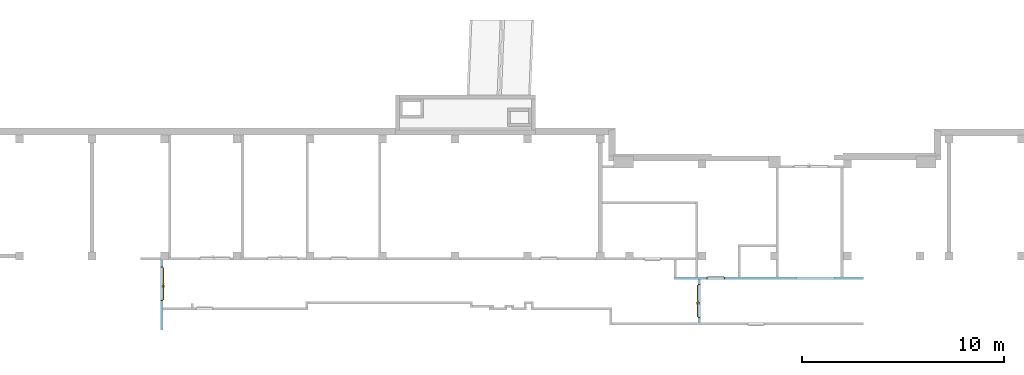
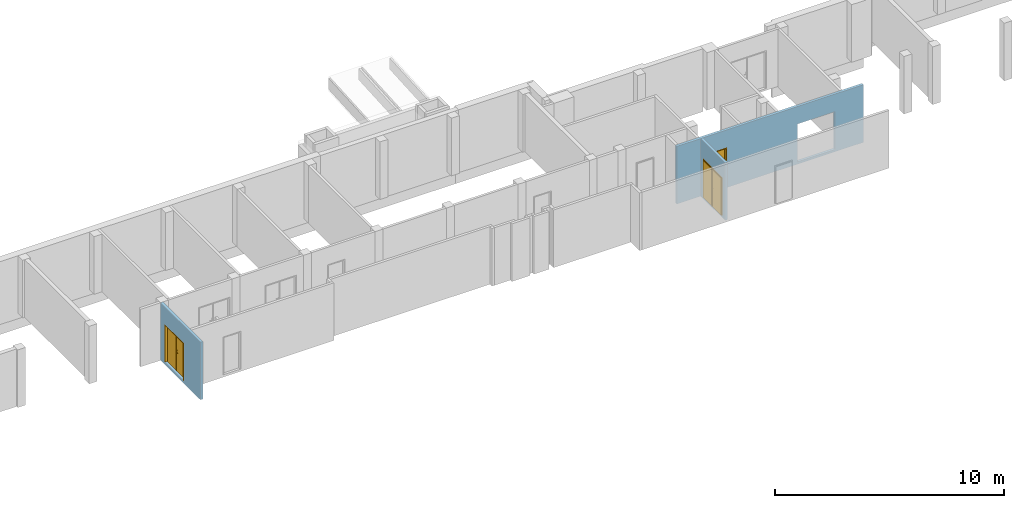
# One storey, part 5 of 6: 3 doors, 4 openings, plus 3 elements that do not belong to this part.
"""IFC4 building model written with IfcOpenShell, lengths in metres."""

import ifcopenshell
import ifcopenshell.guid

model = None  # the IFC model being written
_history = None  # IfcOwnerHistory: only IFC2X3 demands one
_inside = {}  # id of a spatial element -> (the spatial element, [elements in it])
_under = {}  # id of a project, library or spatial element -> (it, [spatial elements below it])
_declared = {}  # id of a project -> (the project, [libraries it declares])
_typed = {}  # id of a type object -> (the type object, [elements of that type])
_made_of = {}  # id of a material, layer set ... -> (it, [elements and type objects made of it])


def new_model(schema):
    """Start an empty IFC model of exactly this schema.

    Asked for "IFC4X3", IfcOpenShell would pick the latest addendum, in which some entities
    have other attributes; the version numbers below select the first issue.
    IFC2X3 requires an IfcOwnerHistory on every rooted entity: one is made here for all.
    """
    global model, _history
    if schema == "IFC4X3":
        model = ifcopenshell.file(schema_version=(4, 3, 0, 0))
    else:
        model = ifcopenshell.file(schema=schema)
    _inside.clear()
    _under.clear()
    _declared.clear()
    _typed.clear()
    _made_of.clear()
    _history = None
    if model.schema == "IFC2X3":
        org = make("IfcOrganization", Name="unknown")
        user = make(
            "IfcPersonAndOrganization",
            ThePerson=make("IfcPerson", FamilyName="unknown"),
            TheOrganization=org,
        )
        app = make(
            "IfcApplication",
            ApplicationDeveloper=org,
            Version="unknown",
            ApplicationFullName="unknown",
            ApplicationIdentifier="unknown",
        )
        _history = make(
            "IfcOwnerHistory",
            OwningUser=user,
            OwningApplication=app,
            ChangeAction="ADDED",
            CreationDate=0,
        )
    return model


def make(cls, **values):
    """One entity of the class cls with the attributes given. An attribute that is None is left unset."""
    return model.create_entity(
        cls, **{name: value for name, value in values.items() if value is not None}
    )


def entity(cls, *values):
    """Any entity or typed value of the class cls, its attributes in the order of the schema. None: left unset."""
    e = model.create_entity(cls)
    for i, value in enumerate(values):
        if value is not None:
            e[i] = value
    return e


def rooted(cls, **values):
    """An entity with a GlobalId (a new one), such as an element, a storey or a relation."""
    return make(cls, GlobalId=ifcopenshell.guid.new(), OwnerHistory=_history, **values)


def si_unit(unit_type, name, prefix=None):
    """IfcSIUnit, for example si_unit("LENGTHUNIT", "METRE", prefix="MILLI")."""
    return make("IfcSIUnit", UnitType=unit_type, Prefix=prefix, Name=name)


def converted_unit(unit_type, name, factor, base, dimensions=None, offset=None):
    """IfcConversionBasedUnit, such as the inch: factor (a typed value) times the base unit."""
    return make(
        "IfcConversionBasedUnit"
        if offset is None
        else "IfcConversionBasedUnitWithOffset",
        ConversionOffset=offset,
        Dimensions=None
        if dimensions is None
        else entity("IfcDimensionalExponents", *dimensions),
        UnitType=unit_type,
        Name=name,
        ConversionFactor=make(
            "IfcMeasureWithUnit", ValueComponent=factor, UnitComponent=base
        ),
    )


def derived_unit(unit_type, elements):
    """IfcDerivedUnit: a product of units, each with its exponent."""
    return make(
        "IfcDerivedUnit",
        Elements=[
            make("IfcDerivedUnitElement", Unit=unit, Exponent=power)
            for unit, power in elements
        ],
        UnitType=unit_type,
    )


def assignment(units):
    """IfcUnitAssignment: the units of a project."""
    return None if units is None else make("IfcUnitAssignment", Units=units)


def point(xyz):
    """IfcCartesianPoint."""
    return None if xyz is None else make("IfcCartesianPoint", Coordinates=xyz)


def direction(xyz):
    """IfcDirection."""
    return None if xyz is None else make("IfcDirection", DirectionRatios=xyz)


def frame(location, z_axis=None, x_axis=None):
    """IfcAxis2Placement3D, a coordinate frame: its origin and axes. An axis left out is left unset."""
    return make(
        "IfcAxis2Placement3D",
        Location=point(location),
        Axis=direction(z_axis),
        RefDirection=direction(x_axis),
    )


def frame_2d(location, x_axis=None):
    """IfcAxis2Placement2D, a coordinate frame in the plane: its origin and x axis."""
    return make(
        "IfcAxis2Placement2D", Location=point(location), RefDirection=direction(x_axis)
    )


def origin():
    """The frame at (0, 0, 0) with its axes left unset."""
    return frame((0.0, 0.0, 0.0))


def origin_with_axes():
    """The frame at (0, 0, 0) with the z axis (0, 0, 1) and the x axis (1, 0, 0) written out."""
    return frame((0.0, 0.0, 0.0), z_axis=(0.0, 0.0, 1.0), x_axis=(1.0, 0.0, 0.0))


def place(relative_to, where):
    """IfcLocalPlacement: puts the frame where relative to a parent placement (None: the world)."""
    return make(
        "IfcLocalPlacement", PlacementRelTo=relative_to, RelativePlacement=where
    )


def context(
    kind, dimensions, precision=None, world=None, true_north=None, identifier=None
):
    """IfcGeometricRepresentationContext, for example the 3D "Model" context."""
    return make(
        "IfcGeometricRepresentationContext",
        ContextIdentifier=identifier,
        ContextType=kind,
        CoordinateSpaceDimension=dimensions,
        Precision=precision,
        WorldCoordinateSystem=world,
        TrueNorth=true_north,
    )


def subcontext(parent, identifier, kind, view, scale=None):
    """IfcGeometricRepresentationSubContext, for example "Body" below "Model"."""
    return make(
        "IfcGeometricRepresentationSubContext",
        ContextIdentifier=identifier,
        ContextType=kind,
        ParentContext=parent,
        TargetScale=scale,
        TargetView=view,
    )


def project(units=None, contexts=None):
    """IfcProject with its units and contexts."""
    return rooted(
        "IfcProject",
        Name="project",
        RepresentationContexts=contexts,
        UnitsInContext=assignment(units),
    )


def spatial(cls, under=None, at=None, **own):
    """A site, building, storey or space (cls), placed at a placement, below another one or the project."""
    s = rooted(cls, ObjectPlacement=at, **own)
    if under is not None:
        _under.setdefault(under.id(), (under, []))[1].append(s)
    return s


def polyline(points):
    """IfcPolyline through the points."""
    return make("IfcPolyline", Points=[point(p) for p in points])


def profile(cls, at=None, kind="AREA", **sizes):
    """A parametric profile (cls). Its sizes go by their IFC names, for example OverallWidth=200.0."""
    return make(cls, ProfileType=kind, Position=at, **sizes)


def rectangle(**sizes):
    """IfcRectangleProfileDef."""
    return profile("IfcRectangleProfileDef", **sizes)


def outline(outer, holes=None, kind="AREA"):
    """IfcArbitraryClosedProfileDef: a profile drawn as a closed curve; with holes, ...WithVoids."""
    if holes is None:
        return make("IfcArbitraryClosedProfileDef", ProfileType=kind, OuterCurve=outer)
    return make(
        "IfcArbitraryProfileDefWithVoids",
        ProfileType=kind,
        OuterCurve=outer,
        InnerCurves=holes,
    )


def extrude(swept, where, along, depth):
    """IfcExtrudedAreaSolid: the profile swept, set in the frame where, extruded along a direction by depth."""
    return make(
        "IfcExtrudedAreaSolid",
        SweptArea=swept,
        Position=where,
        ExtrudedDirection=direction(along),
        Depth=depth,
    )


def faces_of(points, faces, orient=None, outer=None):
    """IfcFace entities. A face is a list of loops; a loop is a list of indices into points, from 0.

    orient and outer hold one flag for each loop. By default every Orientation is true, the
    first loop of a face is its IfcFaceOuterBound and the others are IfcFaceBound.
    """
    made = []
    for i, loops in enumerate(faces):
        bounds = []
        for j, loop in enumerate(loops):
            is_outer = j == 0 if outer is None else outer[i][j]
            bounds.append(
                make(
                    "IfcFaceOuterBound" if is_outer else "IfcFaceBound",
                    Bound=make("IfcPolyLoop", Polygon=[points[k] for k in loop]),
                    Orientation=True if orient is None else orient[i][j],
                )
            )
        made.append(make("IfcFace", Bounds=bounds))
    return made


def closed_shell(faces, orient=None, outer=None):
    """The faces of one IfcClosedShell. faceted_brep and surface_model build it on their shared points."""
    return ("IfcClosedShell", faces, orient, outer)


def open_shell(faces, orient=None, outer=None):
    """The faces of one IfcOpenShell. surface_model builds it on its shared points."""
    return ("IfcOpenShell", faces, orient, outer)


def faceted_brep(points, faces, orient=None, outer=None, voids=None):
    """IfcFacetedBrep: a solid bounded by flat faces; with voids (closed shells), ...WithVoids."""
    shared = [point(p) for p in points]
    hull = make("IfcClosedShell", CfsFaces=faces_of(shared, faces, orient, outer))
    if voids is None:
        return make("IfcFacetedBrep", Outer=hull)
    return make(
        "IfcFacetedBrepWithVoids",
        Outer=hull,
        Voids=[
            make(cls, CfsFaces=faces_of(shared, fs, o, b)) for cls, fs, o, b in voids
        ],
    )


def surface_model(cls, points, shells):
    """IfcFaceBasedSurfaceModel or IfcShellBasedSurfaceModel (cls): surfaces that need not close."""
    shared = [point(p) for p in points]
    made = [make(c, CfsFaces=faces_of(shared, fs, o, b)) for c, fs, o, b in shells]
    if cls == "IfcFaceBasedSurfaceModel":
        return make(cls, FbsmFaces=made)
    return make(cls, SbsmBoundary=made)


def shape(context_of_items, identifier, shape_type, items):
    """IfcShapeRepresentation: the items that make up one representation, for example the "Body"."""
    return make(
        "IfcShapeRepresentation",
        ContextOfItems=context_of_items,
        RepresentationIdentifier=identifier,
        RepresentationType=shape_type,
        Items=items,
    )


def source(mapping_origin, context_of_items, identifier, shape_type, items):
    """IfcRepresentationMap: a shape defined once, which mapped items show again and again."""
    return make(
        "IfcRepresentationMap",
        MappingOrigin=mapping_origin,
        MappedRepresentation=shape(context_of_items, identifier, shape_type, items),
    )


def transform(
    local_origin,
    x_axis=None,
    y_axis=None,
    z_axis=None,
    scale=None,
    scale2=None,
    scale3=None,
    uniform=True,
):
    """IfcCartesianTransformationOperator3D, or its non-uniform kind. x_axis, y_axis, z_axis: its Axis1, 2, 3."""
    if uniform:
        return make(
            "IfcCartesianTransformationOperator3D",
            Axis1=direction(x_axis),
            Axis2=direction(y_axis),
            LocalOrigin=point(local_origin),
            Scale=scale,
            Axis3=direction(z_axis),
        )
    return make(
        "IfcCartesianTransformationOperator3DnonUniform",
        Axis1=direction(x_axis),
        Axis2=direction(y_axis),
        LocalOrigin=point(local_origin),
        Scale=scale,
        Axis3=direction(z_axis),
        Scale2=scale2,
        Scale3=scale3,
    )


def mapped(mapping_source, mapping_target):
    """IfcMappedItem: shows the shape of a source again, moved by a transform."""
    return make(
        "IfcMappedItem", MappingSource=mapping_source, MappingTarget=mapping_target
    )


def material(Name=None, Category=None):
    """IfcMaterial."""
    return make("IfcMaterial", Name=Name, Category=Category)


def layer(
    of_material, thickness, ventilated=None, Name=None, Category=None, Priority=None
):
    """IfcMaterialLayer: one layer of a wall or slab, of a material (None: an air gap)."""
    return make(
        "IfcMaterialLayer",
        Material=of_material,
        LayerThickness=thickness,
        IsVentilated=ventilated,
        Name=Name,
        Category=Category,
        Priority=Priority,
    )


def layer_set(layers, Name=None):
    """IfcMaterialLayerSet."""
    return make("IfcMaterialLayerSet", MaterialLayers=layers, LayerSetName=Name)


def layer_usage(for_layer_set, set_direction, sense, offset, extent=None):
    """IfcMaterialLayerSetUsage: how a layer set lies in its element."""
    return make(
        "IfcMaterialLayerSetUsage",
        ForLayerSet=for_layer_set,
        LayerSetDirection=set_direction,
        DirectionSense=sense,
        OffsetFromReferenceLine=offset,
        ReferenceExtent=extent,
    )


def made_of(thing, what):
    """Note that an element or type object is made of a material, layer set ...; save() writes the relation."""
    if what is not None:
        _made_of.setdefault(what.id(), (what, []))[1].append(thing)
    return thing


def type_object(cls, material=None, **own):
    """A type object (cls), such as IfcWallType, which elements share."""
    return made_of(rooted(cls, **own), material)


def element(
    cls,
    number,
    at=None,
    inside=None,
    cuts=None,
    type_object=None,
    material=None,
    context=None,
    identifier="Body",
    shape_type=None,
    held_by="IfcProductDefinitionShape",
    body=None,
    shapes=None,
    **own,
):
    """One element of the class cls, such as IfcWall. Its Tag is "e" and its number.

    at: its placement. inside: the storey or other place that contains it. cuts: it is an
    opening in that element (IfcRelVoidsElement). A single representation is given by context,
    identifier, shape_type and body (its items); several are given by shapes. held_by: the class
    of the entity that holds the representations. save() writes the other relations.
    """
    e = rooted(cls, Tag="e%d" % number, ObjectPlacement=at, **own)
    if body is not None:
        shapes = [shape(context, identifier, shape_type, body)]
    if shapes is not None:
        e.Representation = make(held_by, Representations=shapes)
    if inside is not None:
        _inside.setdefault(inside.id(), (inside, []))[1].append(e)
    if cuts is not None:
        rooted(
            "IfcRelVoidsElement", RelatingBuildingElement=cuts, RelatedOpeningElement=e
        )
    if type_object is not None:
        _typed.setdefault(type_object.id(), (type_object, []))[1].append(e)
    return made_of(e, material)


def fill(opening, filler):
    """IfcRelFillsElement: the door or window that sits in an opening."""
    return rooted(
        "IfcRelFillsElement",
        RelatingOpeningElement=opening,
        RelatedBuildingElement=filler,
    )


def aggregate(whole, parts):
    """IfcRelAggregates: a whole, such as a stair, and the parts it consists of."""
    return rooted("IfcRelAggregates", RelatingObject=whole, RelatedObjects=parts)


def save(model, path):
    """Write the relations noted so far, then the file.

    IfcRelAggregates (storeys below a building ...), IfcRelContainedInSpatialStructure (elements
    in a storey), IfcRelDefinesByType, IfcRelAssociatesMaterial and IfcRelDeclares: one each for
    every whole, place, type object, material and project.
    """
    for whole, parts in _under.values():
        aggregate(whole, parts)
    for where, things in _inside.values():
        rooted(
            "IfcRelContainedInSpatialStructure",
            RelatedElements=things,
            RelatingStructure=where,
        )
    for kind, things in _typed.values():
        rooted("IfcRelDefinesByType", RelatedObjects=things, RelatingType=kind)
    for what, things in _made_of.values():
        rooted("IfcRelAssociatesMaterial", RelatedObjects=things, RelatingMaterial=what)
    for by, libraries in _declared.values():
        rooted("IfcRelDeclares", RelatingContext=by, RelatedDefinitions=libraries)
    model.write(path)


model = new_model("IFC4")

# Units and contexts
model_context = context("Model", 3, precision=1e-05, world=origin())
body_context = subcontext(model_context, "Body", "Model", "MODEL_VIEW")
ifc_project = project(units=[si_unit("LENGTHUNIT", "METRE"), si_unit("AREAUNIT", "SQUARE_METRE"), si_unit("VOLUMEUNIT", "CUBIC_METRE"), si_unit("MASSUNIT", "GRAM", prefix="KILO"), converted_unit("PLANEANGLEUNIT", "DEGREE", entity("IfcPlaneAngleMeasure", 0.0174532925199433), si_unit("PLANEANGLEUNIT", "RADIAN"), dimensions=[0, 0, 0, 0, 0, 0, 0]), derived_unit("THERMALTRANSMITTANCEUNIT", [(si_unit("POWERUNIT", "WATT"), 1), (si_unit("THERMODYNAMICTEMPERATUREUNIT", "KELVIN"), -1), (si_unit("LENGTHUNIT", "METRE"), -2)]), derived_unit("VOLUMETRICFLOWRATEUNIT", [(si_unit("LENGTHUNIT", "METRE"), 3), (converted_unit("TIMEUNIT", "hour", entity("IfcTimeMeasure", 3600.0), si_unit("TIMEUNIT", "SECOND"), dimensions=[0, 0, 1, 0, 0, 0, 0]), -1), (si_unit("LENGTHUNIT", "METRE"), -1)])], contexts=[model_context])

# Site, building, storey
site_placement = place(None, origin())
site = spatial("IfcSite", under=ifc_project, at=site_placement, Name="3. ASŘ", CompositionType="ELEMENT")
building_placement = place(site_placement, origin())
building = spatial("IfcBuilding", under=site, at=building_placement, Name="Pavilon B", CompositionType="ELEMENT")
storey_placement = place(building_placement, frame((0.0, 0.0, -3.3)))
storey = spatial("IfcBuildingStorey", under=building, at=storey_placement, Name="Půdorys 1.PP", CompositionType="ELEMENT", Elevation=-3.3)

# Wall, opening, door
ifc_material_1 = material(Name="ZDIVO Z CDm")
ifc_layer_1 = layer(ifc_material_1, 0.125)
ifc_layer_set_1 = layer_set([ifc_layer_1])
ifc_layer_usage_1 = layer_usage(ifc_layer_set_1, "AXIS2", "POSITIVE", 0.0)
wall_1_placement = place(storey_placement, frame((10.0, -21.8, -0.12), z_axis=(0.0, 0.0, 1.0), x_axis=(0.0, -1.0, 0.0)))
wall_1 = element("IfcWall", 1, at=wall_1_placement, inside=storey, material=ifc_layer_usage_1, Name="ZDIVO Z CDm", context=body_context, shape_type="SweptSolid", body=[
    extrude(rectangle(XDim=3.475, YDim=0.125, at=frame_2d((1.7375, 0.0625), x_axis=(1.0, 0.0))), origin_with_axes(), (0.0, 0.0, 1.0), 3.07),
])
opening_1_placement = place(wall_1_placement, frame((2.02499999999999, 0.125, 0.12), z_axis=(0.0, -1.0, 0.0), x_axis=(0.0, 0.0, 1.0)))
opening_1 = element("IfcOpeningElement", 2, at=opening_1_placement, cuts=wall_1, Name="Dveřní otvor", ObjectType="Opening", context=body_context, shape_type="SweptSolid", body=[
    extrude(outline(polyline([(0.0, 1.7), (2.02, 1.7), (2.02, 0.0), (0.0, 0.0), (0.0, 1.7)])), origin_with_axes(), (0.0, 0.0, 1.0), 0.125),
])
door_type_1 = type_object("IfcDoorType", Name="D401", OperationType="NOTDEFINED", ParameterTakesPrecedence=False, PredefinedType="DOOR")
shared_shape_1 = source(origin_with_axes(), body_context, "Body", "SurfaceModel", [
    surface_model("IfcShellBasedSurfaceModel", [(0.0, 0.125, 2.02), (0.0, 0.125, -7.65404249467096e-18), (0.05, 0.125, -7.65404249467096e-18), (0.05, 0.125, 2.02), (0.0, 0.0, 7.65404249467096e-18), (0.0, 2.41584530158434e-16, 2.02), (0.05, 2.41584530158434e-16, 2.02), (0.05, 0.0, 7.65404249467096e-18)], [closed_shell([[[0, 1, 2, 3]], [[4, 5, 6, 7]], [[1, 0, 5, 4]], [[2, 1, 4, 7]], [[3, 2, 7, 6]], [[0, 3, 6, 5]]], orient=[[False], [False], [False], [False], [False], [False]])]),
    surface_model("IfcShellBasedSurfaceModel", [(1.65, 0.125, 2.02), (1.65, 0.125, -7.65404249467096e-18), (1.7, 0.125, -7.65404249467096e-18), (1.7, 0.125, 2.02), (1.65, 0.0, 7.65404249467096e-18), (1.65, 2.41584530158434e-16, 2.02), (1.7, 2.41584530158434e-16, 2.02), (1.7, 0.0, 7.65404249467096e-18)], [closed_shell([[[0, 1, 2, 3]], [[4, 5, 6, 7]], [[1, 0, 5, 4]], [[2, 1, 4, 7]], [[3, 2, 7, 6]], [[0, 3, 6, 5]]], orient=[[False], [False], [False], [False], [False], [False]])]),
    surface_model("IfcShellBasedSurfaceModel", [(0.05, 0.125, 2.02), (0.05, 0.125, 1.97), (1.65, 0.125, 1.97), (1.65, 0.125, 2.02), (0.05, 2.41584530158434e-16, 1.97), (0.05, 2.41584530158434e-16, 2.02), (1.65, 2.41584530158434e-16, 2.02), (1.65, 2.41584530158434e-16, 1.97)], [closed_shell([[[0, 1, 2, 3]], [[4, 5, 6, 7]], [[1, 0, 5, 4]], [[2, 1, 4, 7]], [[3, 2, 7, 6]], [[0, 3, 6, 5]]], orient=[[False], [False], [False], [False], [False], [False]])]),
    surface_model("IfcShellBasedSurfaceModel", [(0.05, 0.165, 1.97), (0.05, 0.165, -1.25526296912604e-17), (0.8495, 0.165, -1.25526296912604e-17), (0.8495, 0.165, 1.97), (0.05, 0.125, -7.65404249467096e-18), (0.05, 0.125, 1.97), (0.8495, 0.125, 1.97), (0.8495, 0.125, -7.65404249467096e-18)], [closed_shell([[[0, 1, 2, 3]], [[4, 5, 6, 7]], [[1, 0, 5, 4]], [[2, 1, 4, 7]], [[3, 2, 7, 6]], [[0, 3, 6, 5]]], orient=[[False], [False], [False], [False], [False], [False]])]),
    surface_model("IfcShellBasedSurfaceModel", [(0.8295, 0.165, 1.97), (0.8695, 0.165, 1.97), (0.8695, 0.165, -1.25526296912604e-17), (0.8295, 0.165, -1.25526296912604e-17), (0.8295, 0.185, -1.50019232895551e-17), (0.8695, 0.185, -1.50019232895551e-17), (0.8695, 0.185, 1.97), (0.8295, 0.185, 1.97)], [closed_shell([[[0, 1, 2, 3]], [[4, 5, 6, 7]], [[3, 4, 7, 0]], [[2, 5, 4, 3]], [[1, 6, 5, 2]], [[0, 7, 6, 1]]], orient=[[False], [False], [False], [False], [False], [False]])]),
    surface_model("IfcShellBasedSurfaceModel", [(0.7595, 0.125, 1.125), (0.7595, 0.125, 0.91), (0.8095, 0.125, 0.91), (0.8095, 0.125, 1.125), (0.7595, 0.115, 0.91), (0.7595, 0.115, 1.125), (0.8095, 0.115, 1.125), (0.8095, 0.115, 0.91)], [closed_shell([[[0, 1, 2, 3]], [[4, 5, 6, 7]], [[1, 0, 5, 4]], [[2, 1, 4, 7]], [[3, 2, 7, 6]], [[0, 3, 6, 5]]], orient=[[False], [False], [False], [False], [False], [False]])]),
    surface_model("IfcShellBasedSurfaceModel", [(0.7845, 0.115, 1.06), (0.7795, 0.115, 1.05866025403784), (0.775839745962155, 0.115, 1.055), (0.7745, 0.115, 1.05), (0.775839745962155, 0.115, 1.045), (0.7795, 0.115, 1.04133974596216), (0.7845, 0.115, 1.04), (0.7895, 0.115, 1.04133974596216), (0.793160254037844, 0.115, 1.045), (0.7945, 0.115, 1.05), (0.793160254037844, 0.115, 1.055), (0.7895, 0.115, 1.05866025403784), (0.7895, 0.0700000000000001, 1.05866025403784), (0.7845, 0.0750000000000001, 1.06), (0.793160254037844, 0.0663397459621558, 1.055), (0.7945, 0.0650000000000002, 1.05), (0.793160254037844, 0.0663397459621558, 1.045), (0.7895, 0.0700000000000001, 1.04133974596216), (0.7845, 0.0750000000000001, 1.04), (0.7795, 0.0800000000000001, 1.04133974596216), (0.775839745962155, 0.0836602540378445, 1.045), (0.7745, 0.0850000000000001, 1.05), (0.775839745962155, 0.0836602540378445, 1.055), (0.7795, 0.0800000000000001, 1.05866025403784), (0.6695, 0.0700000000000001, 1.05866025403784), (0.6695, 0.0750000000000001, 1.06), (0.6695, 0.0663397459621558, 1.055), (0.6695, 0.0650000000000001, 1.05), (0.6695, 0.0663397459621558, 1.045), (0.6695, 0.0700000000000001, 1.04133974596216), (0.6695, 0.0750000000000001, 1.04), (0.6695, 0.0800000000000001, 1.04133974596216), (0.6695, 0.0836602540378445, 1.045), (0.6695, 0.0850000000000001, 1.05), (0.6695, 0.0836602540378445, 1.055), (0.6695, 0.0800000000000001, 1.05866025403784)], [open_shell([[[0, 1, 2, 3, 4, 5, 6, 7, 8, 9, 10, 11]], [[0, 11, 12, 13]], [[11, 10, 14, 12]], [[10, 9, 15, 14]], [[9, 8, 16, 15]], [[8, 7, 17, 16]], [[7, 6, 18, 17]], [[6, 5, 19, 18]], [[5, 4, 20, 19]], [[4, 3, 21, 20]], [[3, 2, 22, 21]], [[2, 1, 23, 22]], [[1, 0, 13, 23]], [[13, 12, 24, 25]], [[12, 14, 26, 24]], [[14, 15, 27, 26]], [[15, 16, 28, 27]], [[16, 17, 29, 28]], [[17, 18, 30, 29]], [[18, 19, 31, 30]], [[19, 20, 32, 31]], [[20, 21, 33, 32]], [[21, 22, 34, 33]], [[22, 23, 35, 34]], [[23, 13, 25, 35]]], orient=[[False], [False], [False], [False], [False], [False], [False], [False], [False], [False], [False], [False], [False], [False], [False], [False], [False], [False], [False], [False], [False], [False], [False], [False], [False]])]),
    surface_model("IfcShellBasedSurfaceModel", [(0.7595, 0.165, 1.125), (0.8095, 0.165, 1.125), (0.8095, 0.165, 0.91), (0.7595, 0.165, 0.91), (0.7595, 0.175, 0.91), (0.8095, 0.175, 0.91), (0.8095, 0.175, 1.125), (0.7595, 0.175, 1.125)], [closed_shell([[[0, 1, 2, 3]], [[4, 5, 6, 7]], [[3, 4, 7, 0]], [[2, 5, 4, 3]], [[1, 6, 5, 2]], [[0, 7, 6, 1]]], orient=[[False], [False], [False], [False], [False], [False]])]),
    surface_model("IfcShellBasedSurfaceModel", [(0.7845, 0.175, 1.06), (0.7895, 0.175, 1.05866025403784), (0.793160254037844, 0.175, 1.055), (0.7945, 0.175, 1.05), (0.793160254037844, 0.175, 1.045), (0.7895, 0.175, 1.04133974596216), (0.7845, 0.175, 1.04), (0.7795, 0.175, 1.04133974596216), (0.775839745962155, 0.175, 1.045), (0.7745, 0.175, 1.05), (0.775839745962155, 0.175, 1.055), (0.7795, 0.175, 1.05866025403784), (0.7845, 0.215, 1.06), (0.7895, 0.22, 1.05866025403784), (0.793160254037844, 0.223660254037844, 1.055), (0.7945, 0.225, 1.05), (0.793160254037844, 0.223660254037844, 1.045), (0.7895, 0.22, 1.04133974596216), (0.7845, 0.215, 1.04), (0.7795, 0.21, 1.04133974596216), (0.775839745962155, 0.206339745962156, 1.045), (0.7745, 0.205, 1.05), (0.775839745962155, 0.206339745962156, 1.055), (0.7795, 0.21, 1.05866025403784), (0.6695, 0.215, 1.06), (0.6695, 0.22, 1.05866025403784), (0.6695, 0.223660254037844, 1.055), (0.6695, 0.225, 1.05), (0.6695, 0.223660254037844, 1.045), (0.6695, 0.22, 1.04133974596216), (0.6695, 0.215, 1.04), (0.6695, 0.21, 1.04133974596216), (0.6695, 0.206339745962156, 1.045), (0.6695, 0.205, 1.05), (0.6695, 0.206339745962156, 1.055), (0.6695, 0.21, 1.05866025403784)], [open_shell([[[0, 1, 2, 3, 4, 5, 6, 7, 8, 9, 10, 11]], [[0, 12, 13, 1]], [[1, 13, 14, 2]], [[2, 14, 15, 3]], [[3, 15, 16, 4]], [[4, 16, 17, 5]], [[5, 17, 18, 6]], [[6, 18, 19, 7]], [[7, 19, 20, 8]], [[8, 20, 21, 9]], [[9, 21, 22, 10]], [[10, 22, 23, 11]], [[11, 23, 12, 0]], [[12, 24, 25, 13]], [[13, 25, 26, 14]], [[14, 26, 27, 15]], [[15, 27, 28, 16]], [[16, 28, 29, 17]], [[17, 29, 30, 18]], [[18, 30, 31, 19]], [[19, 31, 32, 20]], [[20, 32, 33, 21]], [[21, 33, 34, 22]], [[22, 34, 35, 23]], [[23, 35, 24, 12]]], orient=[[False], [False], [False], [False], [False], [False], [False], [False], [False], [False], [False], [False], [False], [False], [False], [False], [False], [False], [False], [False], [False], [False], [False], [False], [False]])]),
    surface_model("IfcShellBasedSurfaceModel", [(0.8505, 0.165, 1.97), (0.8505, 0.165, -1.25526296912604e-17), (1.65, 0.165, -1.25526296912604e-17), (1.65, 0.165, 1.97), (0.8505, 0.125, -7.65404249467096e-18), (0.8505, 0.125, 1.97), (1.65, 0.125, 1.97), (1.65, 0.125, -7.65404249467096e-18)], [closed_shell([[[0, 1, 2, 3]], [[4, 5, 6, 7]], [[1, 0, 5, 4]], [[2, 1, 4, 7]], [[3, 2, 7, 6]], [[0, 3, 6, 5]]], orient=[[False], [False], [False], [False], [False], [False]])]),
    surface_model("IfcShellBasedSurfaceModel", [(0.8305, 0.125, 1.97), (0.8305, 0.125, -7.65404249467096e-18), (0.8705, 0.125, -7.65404249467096e-18), (0.8705, 0.125, 1.97), (0.8305, 0.105, -5.20474889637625e-18), (0.8305, 0.105, 1.97), (0.8705, 0.105, 1.97), (0.8705, 0.105, -5.20474889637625e-18)], [closed_shell([[[0, 1, 2, 3]], [[4, 5, 6, 7]], [[1, 0, 5, 4]], [[2, 1, 4, 7]], [[3, 2, 7, 6]], [[0, 3, 6, 5]]], orient=[[False], [False], [False], [False], [False], [False]])]),
])
door_1_placement = place(opening_1_placement, frame((0.0, 7.27595761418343e-15, 0.125000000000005), z_axis=(1.0, 0.0, 0.0), x_axis=(0.0, 1.0, -2.44929359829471e-16)))
door_1 = element("IfcDoor", 3, at=door_1_placement, inside=storey, type_object=door_type_1, Name="D401", OverallHeight=2.02, OverallWidth=1.7, context=body_context, shape_type="MappedRepresentation", body=[
    mapped(shared_shape_1, transform((0.0, 0.0, 0.0), x_axis=(1.0, 0.0, 0.0), y_axis=(0.0, -1.0, 0.0), z_axis=(0.0, 0.0, 1.0), scale=1.0)),
])
fill(opening_1, door_1)

ifc_material_2 = material(Name="ZDIVO Z CDm")
ifc_layer_2 = layer(ifc_material_2, 0.125)
ifc_layer_set_2 = layer_set([ifc_layer_2])
ifc_layer_usage_2 = layer_usage(ifc_layer_set_2, "AXIS2", "POSITIVE", 0.0)
wall_2_placement = place(storey_placement, frame((36.65, -22.775, -0.12), z_axis=(0.0, 0.0, 1.0), x_axis=(0.0, -1.0, 0.0)))
wall_2 = element("IfcWall", 4, at=wall_2_placement, inside=storey, material=ifc_layer_usage_2, Name="ZDIVO Z CDm", context=body_context, shape_type="SweptSolid", body=[
    extrude(rectangle(XDim=2.125, YDim=0.125, at=frame_2d((1.0625, 0.0625), x_axis=(1.0, 0.0))), origin_with_axes(), (0.0, 0.0, 1.0), 3.07),
])
opening_2_placement = place(wall_2_placement, frame((1.91249999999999, 0.125, 0.12), z_axis=(0.0, -1.0, 0.0), x_axis=(0.0, 0.0, 1.0)))
opening_2 = element("IfcOpeningElement", 5, at=opening_2_placement, cuts=wall_2, Name="Dveřní otvor", ObjectType="Opening", context=body_context, shape_type="SweptSolid", body=[
    extrude(outline(polyline([(0.0, 1.7), (2.02, 1.7), (2.02, 0.0), (0.0, 0.0), (0.0, 1.7)])), origin_with_axes(), (0.0, 0.0, 1.0), 0.125),
])
door_type_2 = type_object("IfcDoorType", Name="D401", OperationType="NOTDEFINED", ParameterTakesPrecedence=False, PredefinedType="DOOR")
shared_shape_2 = source(origin_with_axes(), body_context, "Body", "SurfaceModel", [
    surface_model("IfcShellBasedSurfaceModel", [(0.0, 0.125, 2.02), (0.0, 0.125, -7.65404249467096e-18), (0.05, 0.125, -7.65404249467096e-18), (0.05, 0.125, 2.02), (0.0, 0.0, 7.65404249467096e-18), (0.0, 2.41584530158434e-16, 2.02), (0.05, 2.41584530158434e-16, 2.02), (0.05, 0.0, 7.65404249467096e-18)], [closed_shell([[[0, 1, 2, 3]], [[4, 5, 6, 7]], [[1, 0, 5, 4]], [[2, 1, 4, 7]], [[3, 2, 7, 6]], [[0, 3, 6, 5]]], orient=[[False], [False], [False], [False], [False], [False]])]),
    surface_model("IfcShellBasedSurfaceModel", [(1.65, 0.125, 2.02), (1.65, 0.125, -7.65404249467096e-18), (1.7, 0.125, -7.65404249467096e-18), (1.7, 0.125, 2.02), (1.65, 0.0, 7.65404249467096e-18), (1.65, 2.41584530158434e-16, 2.02), (1.7, 2.41584530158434e-16, 2.02), (1.7, 0.0, 7.65404249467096e-18)], [closed_shell([[[0, 1, 2, 3]], [[4, 5, 6, 7]], [[1, 0, 5, 4]], [[2, 1, 4, 7]], [[3, 2, 7, 6]], [[0, 3, 6, 5]]], orient=[[False], [False], [False], [False], [False], [False]])]),
    surface_model("IfcShellBasedSurfaceModel", [(0.05, 0.125, 2.02), (0.05, 0.125, 1.97), (1.65, 0.125, 1.97), (1.65, 0.125, 2.02), (0.05, 2.41584530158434e-16, 1.97), (0.05, 2.41584530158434e-16, 2.02), (1.65, 2.41584530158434e-16, 2.02), (1.65, 2.41584530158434e-16, 1.97)], [closed_shell([[[0, 1, 2, 3]], [[4, 5, 6, 7]], [[1, 0, 5, 4]], [[2, 1, 4, 7]], [[3, 2, 7, 6]], [[0, 3, 6, 5]]], orient=[[False], [False], [False], [False], [False], [False]])]),
    surface_model("IfcShellBasedSurfaceModel", [(0.05, 0.165, 1.97), (0.05, 0.165, -1.25526296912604e-17), (0.8495, 0.165, -1.25526296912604e-17), (0.8495, 0.165, 1.97), (0.05, 0.125, -7.65404249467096e-18), (0.05, 0.125, 1.97), (0.8495, 0.125, 1.97), (0.8495, 0.125, -7.65404249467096e-18)], [closed_shell([[[0, 1, 2, 3]], [[4, 5, 6, 7]], [[1, 0, 5, 4]], [[2, 1, 4, 7]], [[3, 2, 7, 6]], [[0, 3, 6, 5]]], orient=[[False], [False], [False], [False], [False], [False]])]),
    surface_model("IfcShellBasedSurfaceModel", [(0.8295, 0.165, 1.97), (0.8695, 0.165, 1.97), (0.8695, 0.165, -1.25526296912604e-17), (0.8295, 0.165, -1.25526296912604e-17), (0.8295, 0.185, -1.50019232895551e-17), (0.8695, 0.185, -1.50019232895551e-17), (0.8695, 0.185, 1.97), (0.8295, 0.185, 1.97)], [closed_shell([[[0, 1, 2, 3]], [[4, 5, 6, 7]], [[3, 4, 7, 0]], [[2, 5, 4, 3]], [[1, 6, 5, 2]], [[0, 7, 6, 1]]], orient=[[False], [False], [False], [False], [False], [False]])]),
    surface_model("IfcShellBasedSurfaceModel", [(0.7595, 0.125, 1.125), (0.7595, 0.125, 0.91), (0.8095, 0.125, 0.91), (0.8095, 0.125, 1.125), (0.7595, 0.115, 0.91), (0.7595, 0.115, 1.125), (0.8095, 0.115, 1.125), (0.8095, 0.115, 0.91)], [closed_shell([[[0, 1, 2, 3]], [[4, 5, 6, 7]], [[1, 0, 5, 4]], [[2, 1, 4, 7]], [[3, 2, 7, 6]], [[0, 3, 6, 5]]], orient=[[False], [False], [False], [False], [False], [False]])]),
    surface_model("IfcShellBasedSurfaceModel", [(0.7845, 0.115, 1.06), (0.7795, 0.115, 1.05866025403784), (0.775839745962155, 0.115, 1.055), (0.7745, 0.115, 1.05), (0.775839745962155, 0.115, 1.045), (0.7795, 0.115, 1.04133974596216), (0.7845, 0.115, 1.04), (0.7895, 0.115, 1.04133974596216), (0.793160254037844, 0.115, 1.045), (0.7945, 0.115, 1.05), (0.793160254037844, 0.115, 1.055), (0.7895, 0.115, 1.05866025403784), (0.7895, 0.0700000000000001, 1.05866025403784), (0.7845, 0.0750000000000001, 1.06), (0.793160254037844, 0.0663397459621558, 1.055), (0.7945, 0.0650000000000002, 1.05), (0.793160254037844, 0.0663397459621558, 1.045), (0.7895, 0.0700000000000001, 1.04133974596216), (0.7845, 0.0750000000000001, 1.04), (0.7795, 0.0800000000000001, 1.04133974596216), (0.775839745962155, 0.0836602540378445, 1.045), (0.7745, 0.0850000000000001, 1.05), (0.775839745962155, 0.0836602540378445, 1.055), (0.7795, 0.0800000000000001, 1.05866025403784), (0.6695, 0.0700000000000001, 1.05866025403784), (0.6695, 0.0750000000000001, 1.06), (0.6695, 0.0663397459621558, 1.055), (0.6695, 0.0650000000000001, 1.05), (0.6695, 0.0663397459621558, 1.045), (0.6695, 0.0700000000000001, 1.04133974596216), (0.6695, 0.0750000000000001, 1.04), (0.6695, 0.0800000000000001, 1.04133974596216), (0.6695, 0.0836602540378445, 1.045), (0.6695, 0.0850000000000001, 1.05), (0.6695, 0.0836602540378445, 1.055), (0.6695, 0.0800000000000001, 1.05866025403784)], [open_shell([[[0, 1, 2, 3, 4, 5, 6, 7, 8, 9, 10, 11]], [[0, 11, 12, 13]], [[11, 10, 14, 12]], [[10, 9, 15, 14]], [[9, 8, 16, 15]], [[8, 7, 17, 16]], [[7, 6, 18, 17]], [[6, 5, 19, 18]], [[5, 4, 20, 19]], [[4, 3, 21, 20]], [[3, 2, 22, 21]], [[2, 1, 23, 22]], [[1, 0, 13, 23]], [[13, 12, 24, 25]], [[12, 14, 26, 24]], [[14, 15, 27, 26]], [[15, 16, 28, 27]], [[16, 17, 29, 28]], [[17, 18, 30, 29]], [[18, 19, 31, 30]], [[19, 20, 32, 31]], [[20, 21, 33, 32]], [[21, 22, 34, 33]], [[22, 23, 35, 34]], [[23, 13, 25, 35]]], orient=[[False], [False], [False], [False], [False], [False], [False], [False], [False], [False], [False], [False], [False], [False], [False], [False], [False], [False], [False], [False], [False], [False], [False], [False], [False]])]),
    surface_model("IfcShellBasedSurfaceModel", [(0.7595, 0.165, 1.125), (0.8095, 0.165, 1.125), (0.8095, 0.165, 0.91), (0.7595, 0.165, 0.91), (0.7595, 0.175, 0.91), (0.8095, 0.175, 0.91), (0.8095, 0.175, 1.125), (0.7595, 0.175, 1.125)], [closed_shell([[[0, 1, 2, 3]], [[4, 5, 6, 7]], [[3, 4, 7, 0]], [[2, 5, 4, 3]], [[1, 6, 5, 2]], [[0, 7, 6, 1]]], orient=[[False], [False], [False], [False], [False], [False]])]),
    surface_model("IfcShellBasedSurfaceModel", [(0.7845, 0.175, 1.06), (0.7895, 0.175, 1.05866025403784), (0.793160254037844, 0.175, 1.055), (0.7945, 0.175, 1.05), (0.793160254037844, 0.175, 1.045), (0.7895, 0.175, 1.04133974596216), (0.7845, 0.175, 1.04), (0.7795, 0.175, 1.04133974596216), (0.775839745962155, 0.175, 1.045), (0.7745, 0.175, 1.05), (0.775839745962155, 0.175, 1.055), (0.7795, 0.175, 1.05866025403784), (0.7845, 0.215, 1.06), (0.7895, 0.22, 1.05866025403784), (0.793160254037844, 0.223660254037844, 1.055), (0.7945, 0.225, 1.05), (0.793160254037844, 0.223660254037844, 1.045), (0.7895, 0.22, 1.04133974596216), (0.7845, 0.215, 1.04), (0.7795, 0.21, 1.04133974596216), (0.775839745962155, 0.206339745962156, 1.045), (0.7745, 0.205, 1.05), (0.775839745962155, 0.206339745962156, 1.055), (0.7795, 0.21, 1.05866025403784), (0.6695, 0.215, 1.06), (0.6695, 0.22, 1.05866025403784), (0.6695, 0.223660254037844, 1.055), (0.6695, 0.225, 1.05), (0.6695, 0.223660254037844, 1.045), (0.6695, 0.22, 1.04133974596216), (0.6695, 0.215, 1.04), (0.6695, 0.21, 1.04133974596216), (0.6695, 0.206339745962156, 1.045), (0.6695, 0.205, 1.05), (0.6695, 0.206339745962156, 1.055), (0.6695, 0.21, 1.05866025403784)], [open_shell([[[0, 1, 2, 3, 4, 5, 6, 7, 8, 9, 10, 11]], [[0, 12, 13, 1]], [[1, 13, 14, 2]], [[2, 14, 15, 3]], [[3, 15, 16, 4]], [[4, 16, 17, 5]], [[5, 17, 18, 6]], [[6, 18, 19, 7]], [[7, 19, 20, 8]], [[8, 20, 21, 9]], [[9, 21, 22, 10]], [[10, 22, 23, 11]], [[11, 23, 12, 0]], [[12, 24, 25, 13]], [[13, 25, 26, 14]], [[14, 26, 27, 15]], [[15, 27, 28, 16]], [[16, 28, 29, 17]], [[17, 29, 30, 18]], [[18, 30, 31, 19]], [[19, 31, 32, 20]], [[20, 32, 33, 21]], [[21, 33, 34, 22]], [[22, 34, 35, 23]], [[23, 35, 24, 12]]], orient=[[False], [False], [False], [False], [False], [False], [False], [False], [False], [False], [False], [False], [False], [False], [False], [False], [False], [False], [False], [False], [False], [False], [False], [False], [False]])]),
    surface_model("IfcShellBasedSurfaceModel", [(0.8505, 0.165, 1.97), (0.8505, 0.165, -1.25526296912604e-17), (1.65, 0.165, -1.25526296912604e-17), (1.65, 0.165, 1.97), (0.8505, 0.125, -7.65404249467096e-18), (0.8505, 0.125, 1.97), (1.65, 0.125, 1.97), (1.65, 0.125, -7.65404249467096e-18)], [closed_shell([[[0, 1, 2, 3]], [[4, 5, 6, 7]], [[1, 0, 5, 4]], [[2, 1, 4, 7]], [[3, 2, 7, 6]], [[0, 3, 6, 5]]], orient=[[False], [False], [False], [False], [False], [False]])]),
    surface_model("IfcShellBasedSurfaceModel", [(0.8305, 0.125, 1.97), (0.8305, 0.125, -7.65404249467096e-18), (0.8705, 0.125, -7.65404249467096e-18), (0.8705, 0.125, 1.97), (0.8305, 0.105, -5.20474889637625e-18), (0.8305, 0.105, 1.97), (0.8705, 0.105, 1.97), (0.8705, 0.105, -5.20474889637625e-18)], [closed_shell([[[0, 1, 2, 3]], [[4, 5, 6, 7]], [[1, 0, 5, 4]], [[2, 1, 4, 7]], [[3, 2, 7, 6]], [[0, 3, 6, 5]]], orient=[[False], [False], [False], [False], [False], [False]])]),
])
door_2_placement = place(opening_2_placement, frame((0.0, 7.27595761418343e-15, 1.45519152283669e-14), z_axis=(1.0, 0.0, 0.0), x_axis=(0.0, 1.0, -1.22464679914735e-16)))
door_2 = element("IfcDoor", 6, at=door_2_placement, inside=storey, type_object=door_type_2, Name="D401", OverallHeight=2.02, OverallWidth=1.7, context=body_context, shape_type="MappedRepresentation", body=[
    mapped(shared_shape_2, transform((0.0, 0.0, 0.0), x_axis=(1.0, 0.0, 0.0), y_axis=(0.0, 1.0, 0.0), z_axis=(0.0, 0.0, 1.0), scale=1.0)),
])
fill(opening_2, door_2)

# Wall, openings, door
ifc_material_3 = material(Name="ZDIVO Z CDm")
ifc_layer_3 = layer(ifc_material_3, 0.125)
ifc_layer_set_3 = layer_set([ifc_layer_3])
ifc_layer_usage_3 = layer_usage(ifc_layer_set_3, "AXIS2", "POSITIVE", 0.0)
wall_3_placement = place(storey_placement, frame((44.85, -22.65, -0.12), z_axis=(0.0, 0.0, 1.0), x_axis=(-1.0, 0.0, 0.0)))
wall_3 = element("IfcWall", 7, at=wall_3_placement, inside=storey, material=ifc_layer_usage_3, Name="ZDIVO Z CDm", context=body_context, shape_type="SweptSolid", body=[
    extrude(rectangle(XDim=9.4, YDim=0.125, at=frame_2d((4.7, 0.0625), x_axis=(1.0, 0.0))), origin_with_axes(), (0.0, 0.0, 1.0), 3.07),
])
opening_3_placement = place(wall_3_placement, frame((7.775, 0.125, 0.12), z_axis=(0.0, -1.0, 0.0), x_axis=(0.0, 0.0, 1.0)))
opening_3 = element("IfcOpeningElement", 8, at=opening_3_placement, cuts=wall_3, Name="Dveřní otvor", ObjectType="Opening", context=body_context, shape_type="SweptSolid", body=[
    extrude(outline(polyline([(0.0, 0.9), (2.02, 0.9), (2.02, 0.0), (0.0, 0.0), (0.0, 0.9)])), origin_with_axes(), (0.0, 0.0, 1.0), 0.125),
])
opening_4_placement = place(wall_3_placement, frame((1.425, 0.0, 0.12), z_axis=(0.0, 1.0, 0.0), x_axis=(0.0, 0.0, 1.0)))
element("IfcOpeningElement", 9, at=opening_4_placement, cuts=wall_3, Name="Dveřní otvor", ObjectType="Opening", context=body_context, shape_type="SweptSolid", body=[
    extrude(outline(polyline([(0.0, 1.9), (2.02, 1.9), (2.02, 0.0), (0.0, 0.0), (0.0, 1.9)])), origin_with_axes(), (0.0, 0.0, 1.0), 0.125),
])
door_type_3 = type_object("IfcDoorType", Name="D401", OperationType="NOTDEFINED", ParameterTakesPrecedence=False, PredefinedType="DOOR")
shared_shape_3 = source(origin_with_axes(), body_context, "Body", "Brep", [
    faceted_brep([(0.0, 0.165, 2.02), (0.0, 0.165, -7.65404249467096e-18), (0.05, 0.165, -7.65404249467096e-18), (0.05, 0.165, 2.02), (0.0, 0.04, 7.65404249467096e-18), (0.0, 0.0400000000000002, 2.02), (0.05, 0.0400000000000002, 2.02), (0.05, 0.04, 7.65404249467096e-18)], [[[0, 1, 2, 3]], [[4, 5, 6, 7]], [[1, 0, 5, 4]], [[2, 1, 4, 7]], [[3, 2, 7, 6]], [[0, 3, 6, 5]]], orient=[[False], [False], [False], [False], [False], [False]]),
    faceted_brep([(0.85, 0.165, 2.02), (0.85, 0.165, -7.65404249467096e-18), (0.9, 0.165, -7.65404249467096e-18), (0.9, 0.165, 2.02), (0.85, 0.04, 7.65404249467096e-18), (0.85, 0.0400000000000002, 2.02), (0.9, 0.0400000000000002, 2.02), (0.9, 0.04, 7.65404249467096e-18)], [[[0, 1, 2, 3]], [[4, 5, 6, 7]], [[1, 0, 5, 4]], [[2, 1, 4, 7]], [[3, 2, 7, 6]], [[0, 3, 6, 5]]], orient=[[False], [False], [False], [False], [False], [False]]),
    faceted_brep([(0.05, 0.165, 2.02), (0.05, 0.165, 1.97), (0.85, 0.165, 1.97), (0.85, 0.165, 2.02), (0.05, 0.0400000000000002, 1.97), (0.05, 0.0400000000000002, 2.02), (0.85, 0.0400000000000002, 2.02), (0.85, 0.0400000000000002, 1.97)], [[[0, 1, 2, 3]], [[4, 5, 6, 7]], [[1, 0, 5, 4]], [[2, 1, 4, 7]], [[3, 2, 7, 6]], [[0, 3, 6, 5]]], orient=[[False], [False], [False], [False], [False], [False]]),
    faceted_brep([(0.05, 0.0400000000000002, 1.97), (0.05, 0.04, 7.65404249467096e-18), (0.85, 0.04, 7.65404249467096e-18), (0.85, 0.0400000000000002, 1.97), (0.05, 0.0, 1.25526296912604e-17), (0.05, 2.41584530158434e-16, 1.97), (0.85, 2.41584530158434e-16, 1.97), (0.85, 0.0, 1.25526296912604e-17)], [[[0, 1, 2, 3]], [[4, 5, 6, 7]], [[1, 0, 5, 4]], [[2, 1, 4, 7]], [[3, 2, 7, 6]], [[0, 3, 6, 5]]], orient=[[False], [False], [False], [False], [False], [False]]),
])
door_3_placement = place(opening_3_placement, frame((0.0, 0.9, 0.165), z_axis=(1.0, 0.0, 0.0), x_axis=(0.0, -1.0, 1.22464679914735e-16)))
door_3 = element("IfcDoor", 10, at=door_3_placement, inside=storey, type_object=door_type_3, Name="D401", OverallHeight=2.02, OverallWidth=0.9, context=body_context, shape_type="MappedRepresentation", body=[
    mapped(shared_shape_3, transform((0.0, 0.0, 0.0), x_axis=(1.0, 0.0, 0.0), y_axis=(0.0, 1.0, 0.0), z_axis=(0.0, 0.0, 1.0), scale=1.0)),
])
fill(opening_3, door_3)

save(model, "model.ifc")
